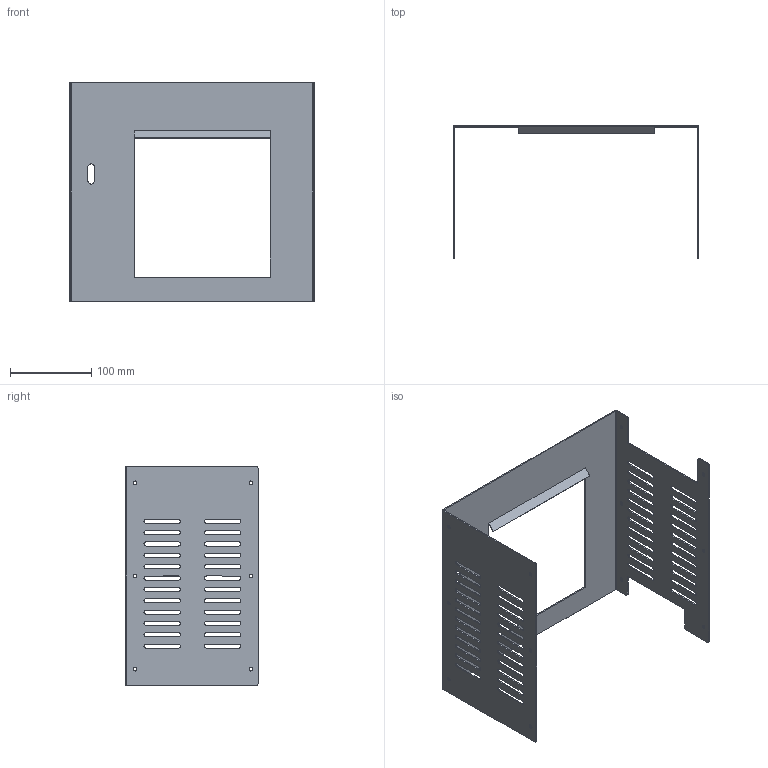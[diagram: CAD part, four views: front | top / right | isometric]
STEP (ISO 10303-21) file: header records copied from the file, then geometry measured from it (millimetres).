
FILE_DESCRIPTION (( 'STEP AP214' ), '1' );
FILE_NAME ('plc眊-奻裔啣.STEP', '2023-05-04T04:02:54', ( 'ay' ), ( '' ), 'SwSTEP 2.0', 'SolidWorks 2020', '' );
FILE_SCHEMA (( 'AUTOMOTIVE_DESIGN' ));
Length unit declared in the file: millimetre
Products named in the file (1): plc箱-上盖板
Bounding box: 303 x 163.5 x 270 mm (x, y, z)
Volume: 183493.2 mm3; surface area: 255383.2 mm2
Topology: 1 solids, 1 shells, 306 faces, 910 edges, 606 vertices
Faces by surface type: cylinder 182, plane 124
Entity records: 10684 total; most frequent: DIRECTION 1888, CARTESIAN_POINT 1823, ORIENTED_EDGE 1820, EDGE_CURVE 910, AXIS2_PLACEMENT_3D 671, VERTEX_POINT 606, VECTOR 546, LINE 546
